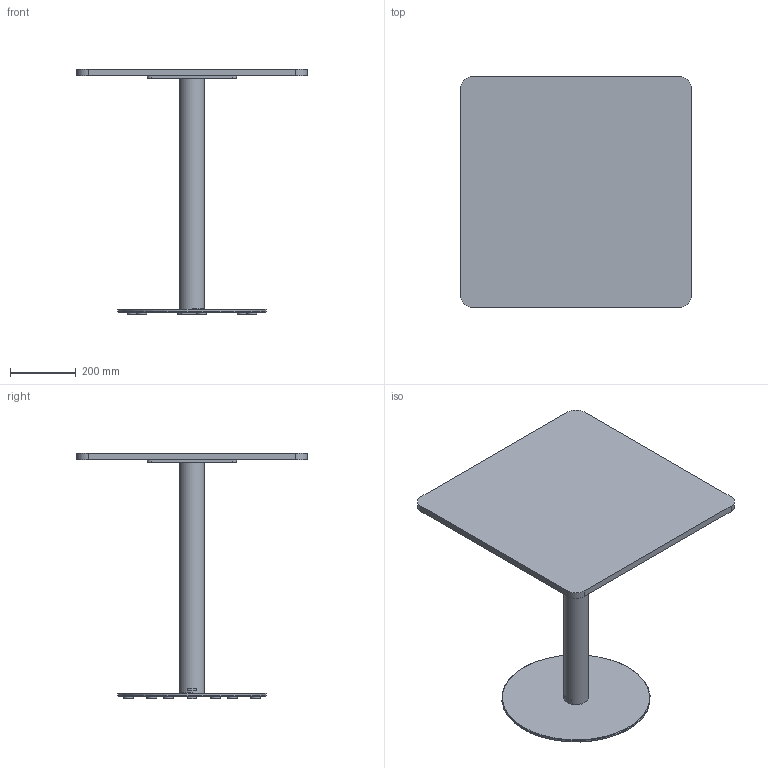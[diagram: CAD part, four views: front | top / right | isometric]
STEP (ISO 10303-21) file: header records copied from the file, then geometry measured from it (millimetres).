
FILE_DESCRIPTION( ('This file contains a STEP AP42 implementation' ,'as created by ZW3D STEP Interface translator.') ,'2;1' );
FILE_NAME( 'Henri - B_Rond - F3 - M1 - 700 x 700 x 750.stp' ,'24 912.153658', (''), ('ZWCAD Software Co.'), 'Version 1.0', 'ZW3D to STEP translator', '' );
FILE_SCHEMA(('AUTOMOTIVE_DESIGN { 1 0 10303 214 1 1 1 1 }'));
Length unit declared in the file: millimetre
Products named in the file (14): 0; PIED BISTROT PARAMETRIQUE_; COLONNE ACIER Ø76 V.02_; TUB-D076-02_; PLA-R76B-01_; SOCLE ACIER C Ø450 V.02_; SCL-D450-02_; PLA-R30A-01_; PLA-R30A-01; CROIX ACIER 370 V.02_; CRX-X370-02_; WUERTH 0276063020 Euro-screw 6.3x2 Verzinkt_; PLATEAU BISTROT PARAMETRIQUE_; insert_m6_13_
Assembly tree (24 placements, depth 3):
  0
  PIED BISTROT PARAMETRIQUE_
    COLONNE ACIER Ø76 V.02_
      TUB-D076-02_
      PLA-R76B-01_  x2
    SOCLE ACIER C Ø450 V.02_
      SCL-D450-02_
      PLA-R30A-01_
      PLA-R30A-01  x5
    CROIX ACIER 370 V.02_
      CRX-X370-02_
    WUERTH 0276063020 Euro-screw 6.3x2 Verzinkt_
    PLATEAU BISTROT PARAMETRIQUE_
      insert_m6_13_  x8
Bounding box: 700 x 700 x 744 mm (x, y, z)
Volume: 12001329.7 mm3; surface area: 1887431.6 mm2
Topology: 21 solids, 21 shells, 508 faces, 1241 edges, 786 vertices
Faces by surface type: plane 246, bspline 121, cylinder 99, cone 41, torus 1
Full cylindrical faces by diameter (mm): 4.88 x1, 6 x8, 6.3 x1, 8 x47, 12 x2, 14 x2, 30 x6, 72 x1, 76 x1, 450 x1
Entity records: 11326 total; most frequent: CARTESIAN_POINT 3238, ORIENTED_EDGE 1462, DIRECTION 1352, EDGE_CURVE 731, VERTEX_POINT 474, VECTOR 452, LINE 452, AXIS2_PLACEMENT_3D 450
